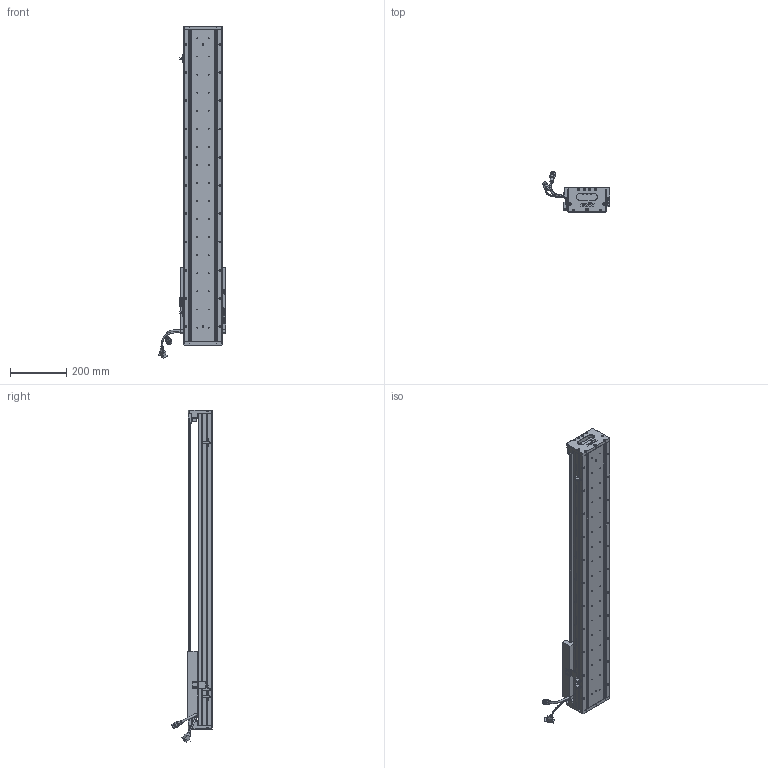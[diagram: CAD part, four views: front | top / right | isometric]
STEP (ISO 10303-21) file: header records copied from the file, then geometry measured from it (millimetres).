
FILE_DESCRIPTION (( 'STEP AP203' ), '1' );
FILE_NAME ('Z3-RY140D-1-L500-B-K.SLDASM_0800.step', '2021-05-17T08:00:45', ( '盈信电脑' ), ( '东莞市道滘镇水果街19号' ), 'SwSTEP 2.0', 'SolidWorks 2016', '' );
FILE_SCHEMA (( 'CONFIG_CONTROL_DESIGN' ));
Length unit declared in the file: millimetre
Products named in the file (36): Z-RY140詩湍狟揤裔; Z3-RY140-L500詩湍100mm遵_0800; 140雄赽晤鎢ん堤盄; SEAL-Part-1; PBU_SHEET; SHIELDPLATE; LABEL-Part-1; Z3-RY140圉猾敕臏賑輸(21遴); Z-RY140詩湍奻揤裔; 覜茼ん672; LABEL; SCALE; 榋妏寠巭燃_暯_M2_2; SCALE-Part-1; Z3-RY140-L500直线电机模组底座_0800; SCREW-M1.7; 140-Z-臏賑輸盄裔(21遴); 140蚥薯蝶輸; HARNESS-Part-2; Z-140詩湍傷裔啣; HOLDER0; SCREW-M1.6; 080黍杅芛假蚾釱21遴; Z-RY140感应器672光电感应片; SCREW-M1.6-2; Z3-RY140D-1-L500-B-K.SLDASM_0800; COVER-Part-1; SEAL; SCREW-M1.7-1; SCREW-M1.6-1; HARNESS; SCALE-Part-2; HARNESS-Part-1; COVER; SCREW-M1.6-3; PSLH080_PSLF2
Assembly tree (41 placements, depth 4):
  Z3-RY140D-1-L500-B-K.SLDASM_0800
    Z3-RY140-L500直线电机模组底座_0800
    Z-RY140感应器672光电感应片
    Z3-RY140圉猾敕臏賑輸(21遴)
    覜茼ん672  x3
    Z3-RY140-L500詩湍100mm遵_0800
    PSLH080_PSLF2
      SCALE
        SCALE-Part-1
        SCALE-Part-2
      HARNESS
        HARNESS-Part-1
        HARNESS-Part-2
      LABEL
        LABEL-Part-1
      COVER
        COVER-Part-1
      SEAL
        SEAL-Part-1
      榋妏寠巭燃_暯_M2_2
      SHIELDPLATE
      SCREW-M1.7
      SCREW-M1.7-1
      PBU_SHEET
      SCREW-M1.6
      SCREW-M1.6-1
      SCREW-M1.6-2
      SCREW-M1.6-3
      HOLDER0
    080黍杅芛假蚾釱21遴
    140-Z-臏賑輸盄裔(21遴)
    Z-140詩湍傷裔啣  x2
    Z-RY140詩湍狟揤裔  x2
    Z-RY140詩湍奻揤裔  x2
    140蚥薯蝶輸  x2
    140雄赽晤鎢ん堤盄
Bounding box: 239.84 x 143.88 x 1175.88 mm (x, y, z)
Volume: 4329331.2 mm3; surface area: 1116934.2 mm2
Topology: 36 solids, 36 shells, 3042 faces, 8042 edges, 5089 vertices
Faces by surface type: cylinder 1456, plane 1158, cone 306, torus 69, bspline 53
Entity records: 89818 total; most frequent: CARTESIAN_POINT 22937, ORIENTED_EDGE 13196, DIRECTION 12982, EDGE_CURVE 6598, AXIS2_PLACEMENT_3D 4782, VERTEX_POINT 4257, VECTOR 3418, LINE 3418
